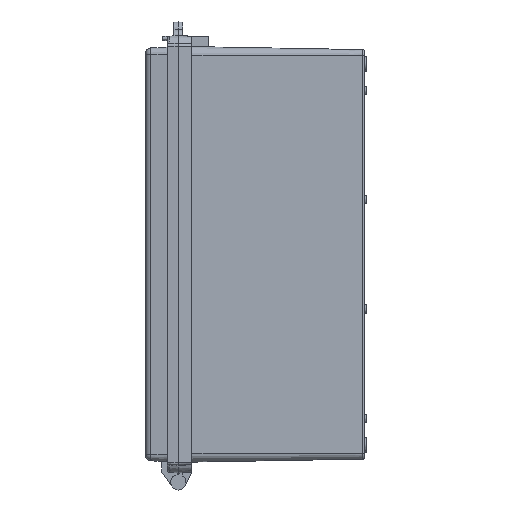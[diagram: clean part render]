
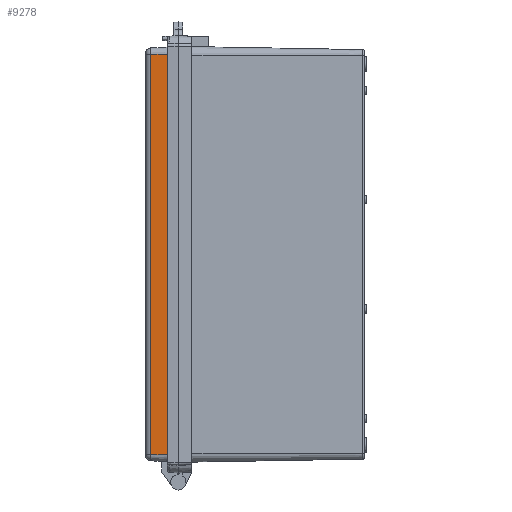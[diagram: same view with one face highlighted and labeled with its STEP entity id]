
A CAD part, left-side view. The second image highlights one B-rep face of the part: STEP entity #9278.
In plain terms, the highlighted planar face has unit normal (-0.999, 0.052, 0).
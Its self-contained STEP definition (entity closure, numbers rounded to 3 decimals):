
#2768 = DIRECTION ( 'NONE',  ( 0.052, 0.999, 0. ) ) ;
#5710 = ORIENTED_EDGE ( 'NONE', *, *, #26698, .T. ) ;
#5906 = EDGE_LOOP ( 'NONE', ( #26560, #6701, #5710, #27791 ) ) ;
#6701 = ORIENTED_EDGE ( 'NONE', *, *, #29052, .T. ) ;
#7002 = VECTOR ( 'NONE', #17298, 1000. ) ;
#8971 = LINE ( 'NONE', #15558, #14960 ) ;
#9278 = ADVANCED_FACE ( 'NONE', ( #23733 ), #14140, .T. ) ;
#9754 = CARTESIAN_POINT ( 'NONE',  ( -239.6, 10., 183.1 ) ) ;
#10578 = CARTESIAN_POINT ( 'NONE',  ( -238.8, 25.262, -183.1 ) ) ;
#11714 = CARTESIAN_POINT ( 'NONE',  ( -238.8, 25.262, 183.1 ) ) ;
#11962 = DIRECTION ( 'NONE',  ( -0.052, -0.999, 0. ) ) ;
#12430 = AXIS2_PLACEMENT_3D ( 'NONE', #25331, #25435, #11962 ) ;
#12981 = LINE ( 'NONE', #19452, #7002 ) ;
#14140 = PLANE ( 'NONE',  #12430 ) ;
#14243 = VERTEX_POINT ( 'NONE', #10578 ) ;
#14668 = CARTESIAN_POINT ( 'NONE',  ( -238.8, 25.262, 189.6 ) ) ;
#14960 = VECTOR ( 'NONE', #22310, 1000. ) ;
#15558 = CARTESIAN_POINT ( 'NONE',  ( -239.6, 10., 189.6 ) ) ;
#15739 = VECTOR ( 'NONE', #2768, 1000. ) ;
#16757 = EDGE_CURVE ( 'NONE', #23387, #21801, #26973, .T. ) ;
#17298 = DIRECTION ( 'NONE',  ( -0.052, -0.999, 0. ) ) ;
#17423 = LINE ( 'NONE', #14668, #22683 ) ;
#17982 = CARTESIAN_POINT ( 'NONE',  ( -239.6, 10., -183.1 ) ) ;
#19452 = CARTESIAN_POINT ( 'NONE',  ( -239.6, 10., -183.1 ) ) ;
#21650 = EDGE_CURVE ( 'NONE', #23387, #22218, #8971, .T. ) ;
#21801 = VERTEX_POINT ( 'NONE', #11714 ) ;
#22218 = VERTEX_POINT ( 'NONE', #17982 ) ;
#22310 = DIRECTION ( 'NONE',  ( 0., 0., -1. ) ) ;
#22683 = VECTOR ( 'NONE', #23700, 1000. ) ;
#23387 = VERTEX_POINT ( 'NONE', #9754 ) ;
#23700 = DIRECTION ( 'NONE',  ( 0., 0., -1. ) ) ;
#23733 = FACE_OUTER_BOUND ( 'NONE', #5906, .T. ) ;
#25288 = CARTESIAN_POINT ( 'NONE',  ( -239.6, 10., 183.1 ) ) ;
#25331 = CARTESIAN_POINT ( 'NONE',  ( -239.6, 10., 189.6 ) ) ;
#25435 = DIRECTION ( 'NONE',  ( -0.999, 0.052, 0. ) ) ;
#26560 = ORIENTED_EDGE ( 'NONE', *, *, #16757, .T. ) ;
#26698 = EDGE_CURVE ( 'NONE', #14243, #22218, #12981, .T. ) ;
#26973 = LINE ( 'NONE', #25288, #15739 ) ;
#27791 = ORIENTED_EDGE ( 'NONE', *, *, #21650, .F. ) ;
#29052 = EDGE_CURVE ( 'NONE', #21801, #14243, #17423, .T. ) ;
